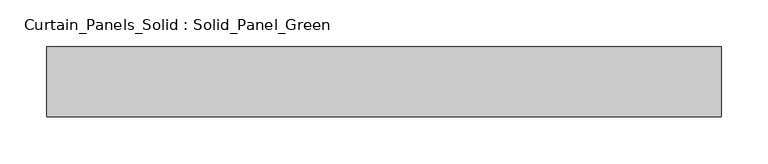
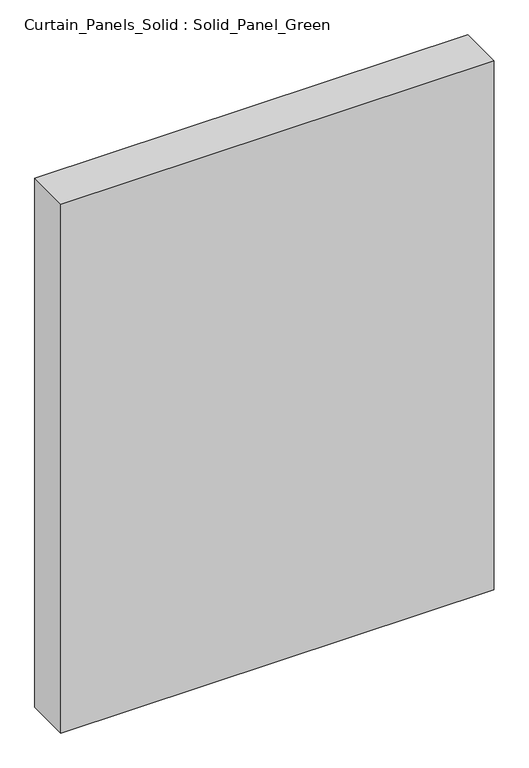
"""IFC4 building model written with IfcOpenShell, lengths in millimetres: plate geometry, Curtain_Panels_Solid : Solid_Panel_Green."""

from ifc_helpers import new_model, si_unit, origin, origin_with_axes, place, context, project, spatial, polyline, outline, extrude, source, transform, mapped, element, save


def curtain_panels_solid_solid_panel_green_053d9300(model_context):
    return source(origin(), model_context, "Body", "SweptSolid", [
        extrude(outline(polyline([(361.2499999, 25.0), (361.2499999, -50.0), (-361.2499999, -50.0), (-361.2499999, 25.0), (361.2499999, 25.0)])), origin_with_axes(), (0.0, 0.0, 1.0), 932.5),
    ])


if __name__ == "__main__":
    model = new_model("IFC4")
    model_context = context("Model", 3, world=origin())
    ifc_project = project(units=[si_unit("LENGTHUNIT", "METRE", prefix="MILLI")], contexts=[model_context])
    site = spatial("IfcSite", under=ifc_project)
    building = spatial("IfcBuilding", under=site)
    placement = place(None, origin())
    curtain_panels_solid_solid_panel_green_shape = curtain_panels_solid_solid_panel_green_053d9300(model_context)
    element("IfcPlate", 1, ObjectType="Curtain_Panels_Solid : Solid_Panel_Green", at=placement, inside=building, context=model_context, shape_type="MappedRepresentation", body=[
        mapped(curtain_panels_solid_solid_panel_green_shape, transform((0.0, 0.0, 0.0), x_axis=(1.0, 0.0, 0.0), y_axis=(0.0, 1.0, 0.0), z_axis=(0.0, 0.0, 1.0))),
    ])
    save(model, "model.ifc")
